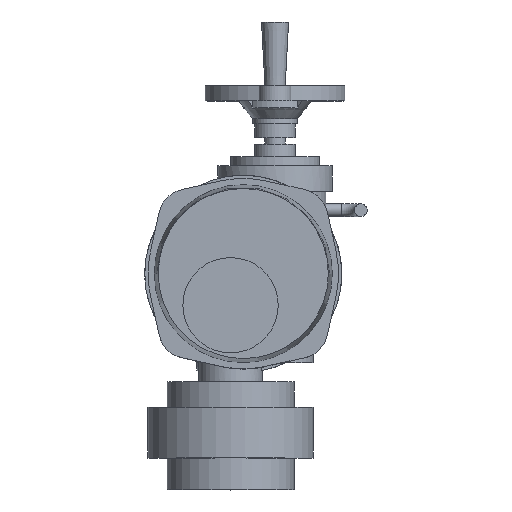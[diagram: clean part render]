
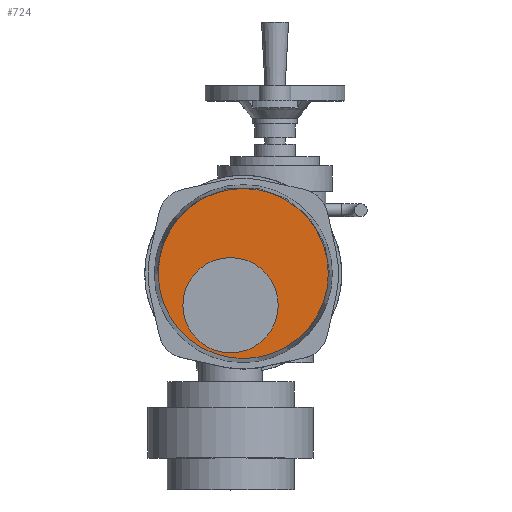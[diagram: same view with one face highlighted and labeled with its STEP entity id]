
A CAD part, top view. The second image highlights one B-rep face of the part: STEP entity #724.
In plain terms, the highlighted planar face has unit normal (0, 0, 1).
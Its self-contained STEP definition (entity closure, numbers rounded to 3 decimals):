
#724=ADVANCED_FACE('',(#7061,#7063),#7065,.T.);
#7061=FACE_BOUND('',#7062,.T.);
#7062=EDGE_LOOP('',(#11975));
#7063=FACE_BOUND('',#7064,.T.);
#7064=EDGE_LOOP('',(#11976));
#7065=PLANE('',#7066);
#7066=AXIS2_PLACEMENT_3D('',#7067,#7068,#7069);
#7067=CARTESIAN_POINT('',(15.,30.,393.));
#7068=DIRECTION('',(0.,0.,1.));
#7069=DIRECTION('',(-1.,0.,0.));
#11975=ORIENTED_EDGE('',*,*,#15785,.T.);
#11976=ORIENTED_EDGE('',*,*,#15788,.F.);
#15785=EDGE_CURVE('',#17904,#17904,#17905,.T.);
#15788=EDGE_CURVE('',#17910,#17910,#17911,.T.);
#17904=VERTEX_POINT('',#22246);
#17905=CIRCLE('',#22247,66.908);
#17910=VERTEX_POINT('',#22261);
#17911=CIRCLE('',#22262,37.5);
#22246=CARTESIAN_POINT('',(-51.908,30.,393.));
#22247=AXIS2_PLACEMENT_3D('',#22248,#22249,#22250);
#22248=CARTESIAN_POINT('',(15.,30.,393.));
#22249=DIRECTION('',(0.,0.,1.));
#22250=DIRECTION('',(-1.,0.,0.));
#22261=CARTESIAN_POINT('',(-32.5,5.,393.));
#22262=AXIS2_PLACEMENT_3D('',#22263,#22264,#22265);
#22263=CARTESIAN_POINT('',(5.,5.,393.));
#22264=DIRECTION('',(0.,0.,1.));
#22265=DIRECTION('',(-1.,0.,0.));
